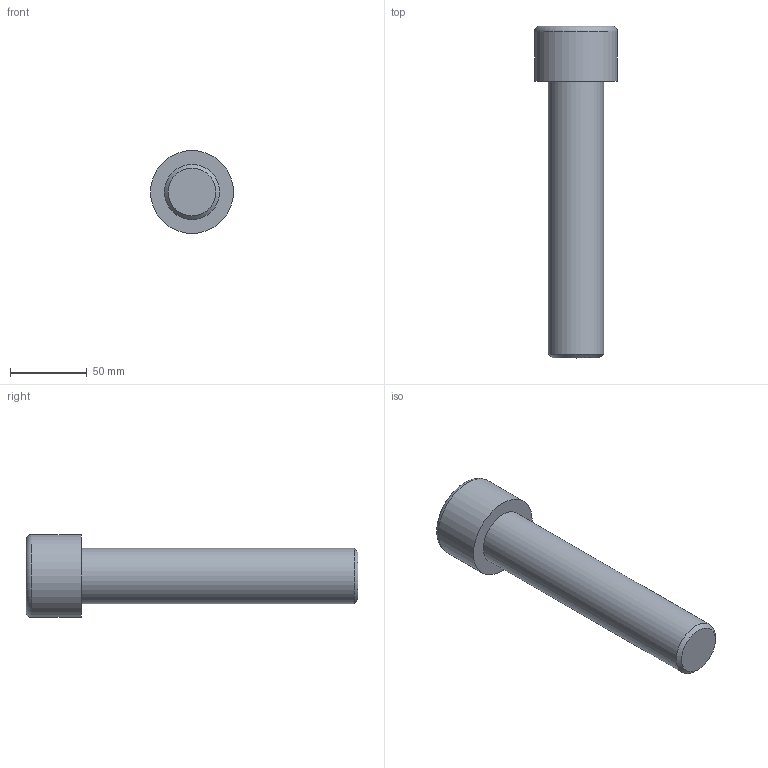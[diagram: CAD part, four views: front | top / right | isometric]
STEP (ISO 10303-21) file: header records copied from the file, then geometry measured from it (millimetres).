
FILE_DESCRIPTION(/* description */ (''),/* implementation_level */ '2;1');
FILE_NAME(/* name */ 'C:\Users\D\Documents\Inventor\各種小物\JIS\JIS B 1176 六角穴付きボルト\M36x180.stp',/* time_stamp */ '2022-05-09T19:03:59+09:00',/* author */ ('D'),/* organization */ (''),/* preprocessor_version */ 'ST-DEVELOPER v18',/* originating_system */ 'Autodesk Inventor 2020',/* authorisation */ '');
FILE_SCHEMA (('AUTOMOTIVE_DESIGN { 1 0 10303 214 3 1 1 }'));
Length unit declared in the file: millimetre
Products named in the file (1): M1.6x2.5
Bounding box: 54 x 216 x 54 mm (x, y, z)
Volume: 250661.1 mm3; surface area: 32556 mm2
Topology: 1 solids, 1 shells, 14 faces, 33 edges, 22 vertices
Faces by surface type: plane 9, cone 2, cylinder 2, torus 1
Full cylindrical faces by diameter (mm): 36 x1, 54 x1
Entity records: 435 total; most frequent: CARTESIAN_POINT 83, ORIENTED_EDGE 64, DIRECTION 64, EDGE_CURVE 32, AXIS2_PLACEMENT_3D 24, VERTEX_POINT 22, EDGE_LOOP 16, LINE 16
